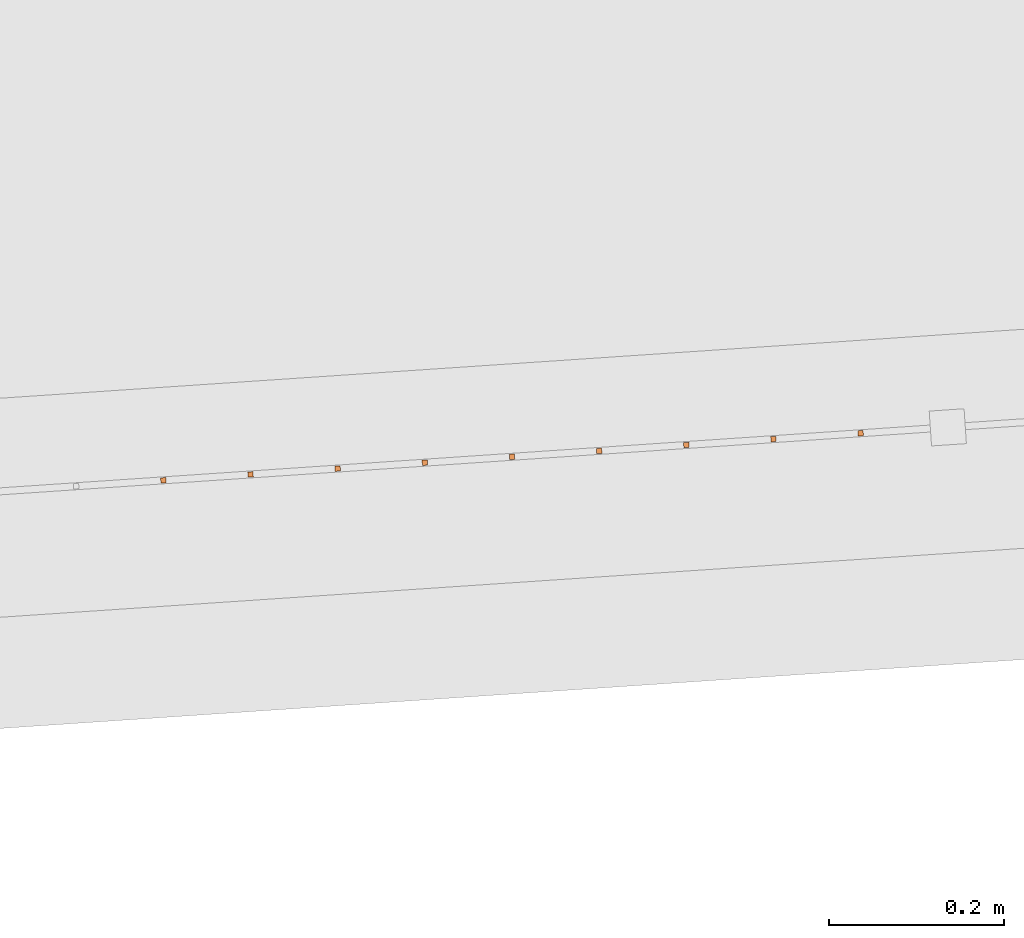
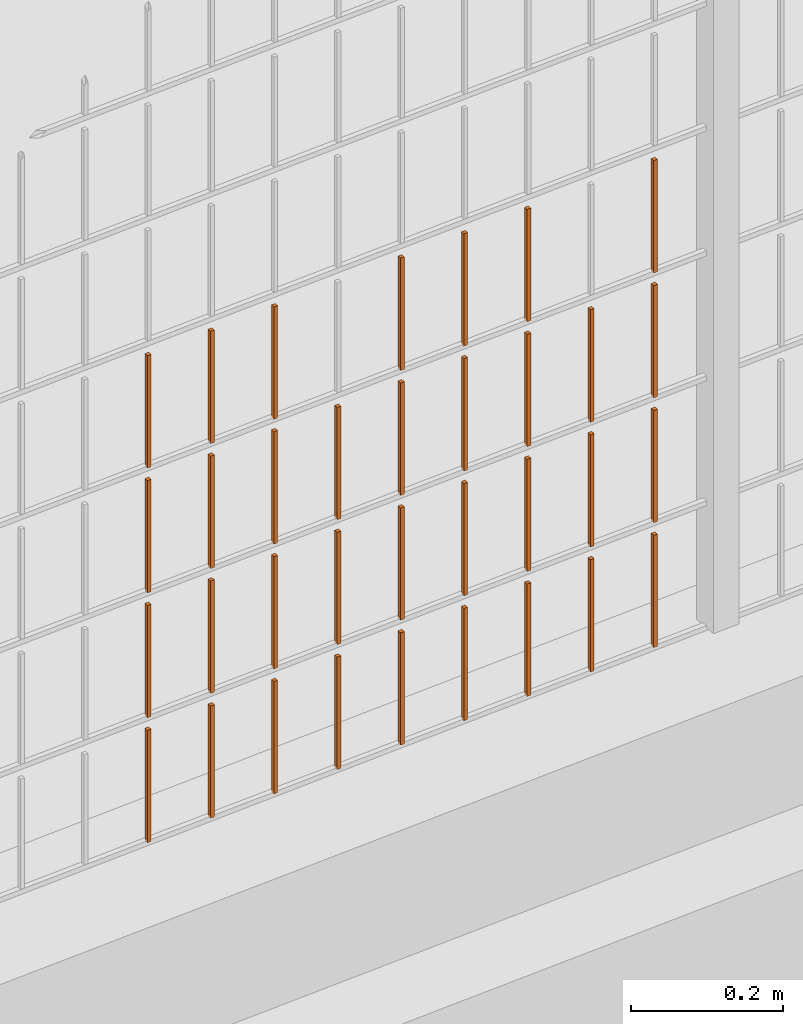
# One storey, part 319 of 1809: 34 proxies, 1 element without a shape of its own.
"""IFC2X3 building model written with IfcOpenShell, lengths in millimetres."""

import ifcopenshell
import ifcopenshell.guid

model = None  # the IFC model being written
_history = None  # IfcOwnerHistory: only IFC2X3 demands one
_inside = {}  # id of a spatial element -> (the spatial element, [elements in it])
_under = {}  # id of a project, library or spatial element -> (it, [spatial elements below it])
_declared = {}  # id of a project -> (the project, [libraries it declares])
_typed = {}  # id of a type object -> (the type object, [elements of that type])
_made_of = {}  # id of a material, layer set ... -> (it, [elements and type objects made of it])


def new_model(schema):
    """Start an empty IFC model of exactly this schema.

    Asked for "IFC4X3", IfcOpenShell would pick the latest addendum, in which some entities
    have other attributes; the version numbers below select the first issue.
    IFC2X3 requires an IfcOwnerHistory on every rooted entity: one is made here for all.
    """
    global model, _history
    if schema == "IFC4X3":
        model = ifcopenshell.file(schema_version=(4, 3, 0, 0))
    else:
        model = ifcopenshell.file(schema=schema)
    _inside.clear()
    _under.clear()
    _declared.clear()
    _typed.clear()
    _made_of.clear()
    _history = None
    if model.schema == "IFC2X3":
        org = make("IfcOrganization", Name="unknown")
        user = make(
            "IfcPersonAndOrganization",
            ThePerson=make("IfcPerson", FamilyName="unknown"),
            TheOrganization=org,
        )
        app = make(
            "IfcApplication",
            ApplicationDeveloper=org,
            Version="unknown",
            ApplicationFullName="unknown",
            ApplicationIdentifier="unknown",
        )
        _history = make(
            "IfcOwnerHistory",
            OwningUser=user,
            OwningApplication=app,
            ChangeAction="ADDED",
            CreationDate=0,
        )
    return model


def make(cls, **values):
    """One entity of the class cls with the attributes given. An attribute that is None is left unset."""
    return model.create_entity(
        cls, **{name: value for name, value in values.items() if value is not None}
    )


def entity(cls, *values):
    """Any entity or typed value of the class cls, its attributes in the order of the schema. None: left unset."""
    e = model.create_entity(cls)
    for i, value in enumerate(values):
        if value is not None:
            e[i] = value
    return e


def rooted(cls, **values):
    """An entity with a GlobalId (a new one), such as an element, a storey or a relation."""
    return make(cls, GlobalId=ifcopenshell.guid.new(), OwnerHistory=_history, **values)


def si_unit(unit_type, name, prefix=None):
    """IfcSIUnit, for example si_unit("LENGTHUNIT", "METRE", prefix="MILLI")."""
    return make("IfcSIUnit", UnitType=unit_type, Prefix=prefix, Name=name)


def converted_unit(unit_type, name, factor, base, dimensions=None, offset=None):
    """IfcConversionBasedUnit, such as the inch: factor (a typed value) times the base unit."""
    return make(
        "IfcConversionBasedUnit"
        if offset is None
        else "IfcConversionBasedUnitWithOffset",
        ConversionOffset=offset,
        Dimensions=None
        if dimensions is None
        else entity("IfcDimensionalExponents", *dimensions),
        UnitType=unit_type,
        Name=name,
        ConversionFactor=make(
            "IfcMeasureWithUnit", ValueComponent=factor, UnitComponent=base
        ),
    )


def derived_unit(unit_type, elements):
    """IfcDerivedUnit: a product of units, each with its exponent."""
    return make(
        "IfcDerivedUnit",
        Elements=[
            make("IfcDerivedUnitElement", Unit=unit, Exponent=power)
            for unit, power in elements
        ],
        UnitType=unit_type,
    )


def money_unit(currency):
    """IfcMonetaryUnit."""
    return make("IfcMonetaryUnit", Currency=currency)


def assignment(units):
    """IfcUnitAssignment: the units of a project."""
    return None if units is None else make("IfcUnitAssignment", Units=units)


def point(xyz):
    """IfcCartesianPoint."""
    return None if xyz is None else make("IfcCartesianPoint", Coordinates=xyz)


def direction(xyz):
    """IfcDirection."""
    return None if xyz is None else make("IfcDirection", DirectionRatios=xyz)


def frame(location, z_axis=None, x_axis=None):
    """IfcAxis2Placement3D, a coordinate frame: its origin and axes. An axis left out is left unset."""
    return make(
        "IfcAxis2Placement3D",
        Location=point(location),
        Axis=direction(z_axis),
        RefDirection=direction(x_axis),
    )


def origin_with_axes():
    """The frame at (0, 0, 0) with the z axis (0, 0, 1) and the x axis (1, 0, 0) written out."""
    return frame((0.0, 0.0, 0.0), z_axis=(0.0, 0.0, 1.0), x_axis=(1.0, 0.0, 0.0))


def place(relative_to, where):
    """IfcLocalPlacement: puts the frame where relative to a parent placement (None: the world)."""
    return make(
        "IfcLocalPlacement", PlacementRelTo=relative_to, RelativePlacement=where
    )


def context(
    kind, dimensions, precision=None, world=None, true_north=None, identifier=None
):
    """IfcGeometricRepresentationContext, for example the 3D "Model" context."""
    return make(
        "IfcGeometricRepresentationContext",
        ContextIdentifier=identifier,
        ContextType=kind,
        CoordinateSpaceDimension=dimensions,
        Precision=precision,
        WorldCoordinateSystem=world,
        TrueNorth=true_north,
    )


def subcontext(parent, identifier, kind, view, scale=None):
    """IfcGeometricRepresentationSubContext, for example "Body" below "Model"."""
    return make(
        "IfcGeometricRepresentationSubContext",
        ContextIdentifier=identifier,
        ContextType=kind,
        ParentContext=parent,
        TargetScale=scale,
        TargetView=view,
    )


def project(units=None, contexts=None):
    """IfcProject with its units and contexts."""
    return rooted(
        "IfcProject",
        Name="project",
        RepresentationContexts=contexts,
        UnitsInContext=assignment(units),
    )


def spatial(cls, under=None, at=None, **own):
    """A site, building, storey or space (cls), placed at a placement, below another one or the project."""
    s = rooted(cls, ObjectPlacement=at, **own)
    if under is not None:
        _under.setdefault(under.id(), (under, []))[1].append(s)
    return s


def faces_of(points, faces, orient=None, outer=None):
    """IfcFace entities. A face is a list of loops; a loop is a list of indices into points, from 0.

    orient and outer hold one flag for each loop. By default every Orientation is true, the
    first loop of a face is its IfcFaceOuterBound and the others are IfcFaceBound.
    """
    made = []
    for i, loops in enumerate(faces):
        bounds = []
        for j, loop in enumerate(loops):
            is_outer = j == 0 if outer is None else outer[i][j]
            bounds.append(
                make(
                    "IfcFaceOuterBound" if is_outer else "IfcFaceBound",
                    Bound=make("IfcPolyLoop", Polygon=[points[k] for k in loop]),
                    Orientation=True if orient is None else orient[i][j],
                )
            )
        made.append(make("IfcFace", Bounds=bounds))
    return made


def faceted_brep(points, faces, orient=None, outer=None, voids=None):
    """IfcFacetedBrep: a solid bounded by flat faces; with voids (closed shells), ...WithVoids."""
    shared = [point(p) for p in points]
    hull = make("IfcClosedShell", CfsFaces=faces_of(shared, faces, orient, outer))
    if voids is None:
        return make("IfcFacetedBrep", Outer=hull)
    return make(
        "IfcFacetedBrepWithVoids",
        Outer=hull,
        Voids=[
            make(cls, CfsFaces=faces_of(shared, fs, o, b)) for cls, fs, o, b in voids
        ],
    )


def shape(context_of_items, identifier, shape_type, items):
    """IfcShapeRepresentation: the items that make up one representation, for example the "Body"."""
    return make(
        "IfcShapeRepresentation",
        ContextOfItems=context_of_items,
        RepresentationIdentifier=identifier,
        RepresentationType=shape_type,
        Items=items,
    )


def source(mapping_origin, context_of_items, identifier, shape_type, items):
    """IfcRepresentationMap: a shape defined once, which mapped items show again and again."""
    return make(
        "IfcRepresentationMap",
        MappingOrigin=mapping_origin,
        MappedRepresentation=shape(context_of_items, identifier, shape_type, items),
    )


def transform(
    local_origin,
    x_axis=None,
    y_axis=None,
    z_axis=None,
    scale=None,
    scale2=None,
    scale3=None,
    uniform=True,
):
    """IfcCartesianTransformationOperator3D, or its non-uniform kind. x_axis, y_axis, z_axis: its Axis1, 2, 3."""
    if uniform:
        return make(
            "IfcCartesianTransformationOperator3D",
            Axis1=direction(x_axis),
            Axis2=direction(y_axis),
            LocalOrigin=point(local_origin),
            Scale=scale,
            Axis3=direction(z_axis),
        )
    return make(
        "IfcCartesianTransformationOperator3DnonUniform",
        Axis1=direction(x_axis),
        Axis2=direction(y_axis),
        LocalOrigin=point(local_origin),
        Scale=scale,
        Axis3=direction(z_axis),
        Scale2=scale2,
        Scale3=scale3,
    )


def mapped(mapping_source, mapping_target):
    """IfcMappedItem: shows the shape of a source again, moved by a transform."""
    return make(
        "IfcMappedItem", MappingSource=mapping_source, MappingTarget=mapping_target
    )


def material(Name=None, Category=None):
    """IfcMaterial."""
    return make("IfcMaterial", Name=Name, Category=Category)


def made_of(thing, what):
    """Note that an element or type object is made of a material, layer set ...; save() writes the relation."""
    if what is not None:
        _made_of.setdefault(what.id(), (what, []))[1].append(thing)
    return thing


def type_object(cls, material=None, **own):
    """A type object (cls), such as IfcWallType, which elements share."""
    return made_of(rooted(cls, **own), material)


def element(
    cls,
    number,
    at=None,
    inside=None,
    cuts=None,
    type_object=None,
    material=None,
    context=None,
    identifier="Body",
    shape_type=None,
    held_by="IfcProductDefinitionShape",
    body=None,
    shapes=None,
    **own,
):
    """One element of the class cls, such as IfcWall. Its Tag is "e" and its number.

    at: its placement. inside: the storey or other place that contains it. cuts: it is an
    opening in that element (IfcRelVoidsElement). A single representation is given by context,
    identifier, shape_type and body (its items); several are given by shapes. held_by: the class
    of the entity that holds the representations. save() writes the other relations.
    """
    e = rooted(cls, Tag="e%d" % number, ObjectPlacement=at, **own)
    if body is not None:
        shapes = [shape(context, identifier, shape_type, body)]
    if shapes is not None:
        e.Representation = make(held_by, Representations=shapes)
    if inside is not None:
        _inside.setdefault(inside.id(), (inside, []))[1].append(e)
    if cuts is not None:
        rooted(
            "IfcRelVoidsElement", RelatingBuildingElement=cuts, RelatedOpeningElement=e
        )
    if type_object is not None:
        _typed.setdefault(type_object.id(), (type_object, []))[1].append(e)
    return made_of(e, material)


def aggregate(whole, parts):
    """IfcRelAggregates: a whole, such as a stair, and the parts it consists of."""
    return rooted("IfcRelAggregates", RelatingObject=whole, RelatedObjects=parts)


def save(model, path):
    """Write the relations noted so far, then the file.

    IfcRelAggregates (storeys below a building ...), IfcRelContainedInSpatialStructure (elements
    in a storey), IfcRelDefinesByType, IfcRelAssociatesMaterial and IfcRelDeclares: one each for
    every whole, place, type object, material and project.
    """
    for whole, parts in _under.values():
        aggregate(whole, parts)
    for where, things in _inside.values():
        rooted(
            "IfcRelContainedInSpatialStructure",
            RelatedElements=things,
            RelatingStructure=where,
        )
    for kind, things in _typed.values():
        rooted("IfcRelDefinesByType", RelatedObjects=things, RelatingType=kind)
    for what, things in _made_of.values():
        rooted("IfcRelAssociatesMaterial", RelatedObjects=things, RelatingMaterial=what)
    for by, libraries in _declared.values():
        rooted("IfcRelDeclares", RelatingContext=by, RelatedDefinitions=libraries)
    model.write(path)


model = new_model("IFC2X3")

# Units and contexts
model_context = context("Model", 3, precision=0.01, world=origin_with_axes(), true_north=direction((0.0, 1.0)))
body_context = subcontext(model_context, "Body", "Model", "MODEL_VIEW")
ifc_project = project(units=[si_unit("LENGTHUNIT", "METRE", prefix="MILLI"), si_unit("AREAUNIT", "SQUARE_METRE"), si_unit("VOLUMEUNIT", "CUBIC_METRE"), converted_unit("PLANEANGLEUNIT", "DEGREE", entity("IfcPlaneAngleMeasure", 0.0174532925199), si_unit("PLANEANGLEUNIT", "RADIAN"), dimensions=[0, 0, 0, 0, 0, 0, 0]), si_unit("SOLIDANGLEUNIT", "STERADIAN"), money_unit("EUR"), converted_unit("TIMEUNIT", "Year", entity("IfcTimeMeasure", 31556926.0), si_unit("TIMEUNIT", "SECOND"), dimensions=[0, 0, 1, 0, 0, 0, 0]), si_unit("MASSUNIT", "GRAM", prefix="KILO"), si_unit("THERMODYNAMICTEMPERATUREUNIT", "DEGREE_CELSIUS"), si_unit("LUMINOUSINTENSITYUNIT", "LUMEN"), si_unit("ENERGYUNIT", "JOULE", prefix="MEGA"), derived_unit("THERMALCONDUCTANCEUNIT", [(si_unit("POWERUNIT", "WATT"), 1), (si_unit("LENGTHUNIT", "METRE"), -1), (si_unit("THERMODYNAMICTEMPERATUREUNIT", "KELVIN"), -1)]), derived_unit("SPECIFICHEATCAPACITYUNIT", [(si_unit("ENERGYUNIT", "JOULE"), 1), (si_unit("MASSUNIT", "GRAM", prefix="KILO"), -1), (si_unit("THERMODYNAMICTEMPERATUREUNIT", "KELVIN"), -1)]), derived_unit("MASSDENSITYUNIT", [(si_unit("MASSUNIT", "GRAM", prefix="KILO"), 1), (si_unit("VOLUMEUNIT", "CUBIC_METRE"), -1)])], contexts=[model_context])

# Site, building, storey
site_placement = place(None, origin_with_axes())
site = spatial("IfcSite", under=ifc_project, at=site_placement, Name="Politse- ja Piirivalveameti ning Päästeameti ühishoone", CompositionType="ELEMENT")
building_placement = place(site_placement, origin_with_axes())
building = spatial("IfcBuilding", under=site, at=building_placement, Name="Politse- ja Piirivalveameti ning Päästeameti ühishoone", CompositionType="ELEMENT")
storey_placement = place(building_placement, origin_with_axes())
storey = spatial("IfcBuildingStorey", under=building, at=storey_placement, Name="Esimene korrus", CompositionType="ELEMENT", Elevation=0.0)

# Proxies
building_element_proxy_type_1 = type_object("IfcBuildingElementProxyType", Name="Railing Type", PredefinedType="NOTDEFINED")
proxy_1_placement = place(storey_placement, frame((89252.001212, -29183.4766571, 203.661247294), z_axis=(0.0, 0.0, 1.0), x_axis=(1.0, 0.0, 0.0)))
proxy_1 = element("IfcBuildingElementProxy", 1, at=proxy_1_placement, inside=storey, type_object=building_element_proxy_type_1, Name="PIIRDEAED")
ifc_material = material(Name="ET-03_Raud")
building_element_proxy_type_2 = type_object("IfcBuildingElementProxyType", Name="IfcBuildingElementProxy", PredefinedType="NOTDEFINED")
shared_shape_1 = source(origin_with_axes(), body_context, "Body", "Brep", [
    faceted_brep([(3.0, 3.0, -0.000752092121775), (-3.0, 3.0, -0.000752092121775), (-3.0, 3.0, 179.99926046), (3.0, 3.0, 179.99926046), (3.0, -3.0, 0.000752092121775), (-3.0, -3.0, 0.000752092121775), (-3.0, -3.0, 180.000764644), (3.0, -3.0, 180.000764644)], [[[0, 1, 2, 3]], [[0, 4, 5, 1]], [[1, 5, 6, 2]], [[3, 2, 6, 7]], [[4, 0, 3, 7]], [[5, 4, 7, 6]]]),
])
proxy_2_placement = place(proxy_1_placement, frame((-38040.0080971, -19867.2337508, 17.67612496), z_axis=(0.0, 0.0, 1.0), x_axis=(1.0, 0.0, 0.0)))
proxy_2 = element("IfcBuildingElementProxy", 2, at=proxy_2_placement, type_object=building_element_proxy_type_2, material=ifc_material, Name="BALUSTER - 001", context=body_context, shape_type="MappedRepresentation", body=[
    mapped(shared_shape_1, transform((0.0, 0.0, 0.0), x_axis=(-0.0673926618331, 0.997726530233, 0.0), y_axis=(-0.997726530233, -0.0673926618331, 0.0), z_axis=(0.0, 0.0, 1.0))),
])
proxy_3_placement = place(proxy_1_placement, frame((-38040.0080971, -19867.2337508, 217.67612496), z_axis=(0.0, 0.0, 1.0), x_axis=(1.0, 0.0, 0.0)))
proxy_3 = element("IfcBuildingElementProxy", 3, at=proxy_3_placement, type_object=building_element_proxy_type_2, material=ifc_material, Name="BALUSTER - 001", context=body_context, shape_type="MappedRepresentation", body=[
    mapped(shared_shape_1, transform((0.0, 0.0, 0.0), x_axis=(-0.0673926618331, 0.997726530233, 0.0), y_axis=(-0.997726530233, -0.0673926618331, 0.0), z_axis=(0.0, 0.0, 1.0))),
])
shared_shape_2 = source(origin_with_axes(), body_context, "Body", "Brep", [
    faceted_brep([(3.0, 3.0, -0.000752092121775), (-3.0, 3.0, -0.000752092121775), (-3.0, 3.0, 179.99926046), (3.0, 3.0, 179.99926046), (3.0, -3.0, 0.000752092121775), (-3.0, -3.0, 0.000752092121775), (-3.0, -3.0, 180.000764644), (3.0, -3.0, 180.000764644)], [[[0, 1, 2, 3]], [[0, 4, 5, 1]], [[1, 5, 6, 2]], [[3, 2, 6, 7]], [[4, 0, 3, 7]], [[5, 4, 7, 6]]]),
])
proxy_4_placement = place(proxy_1_placement, frame((-38040.0080971, -19867.2337508, 417.67612496), z_axis=(0.0, 0.0, 1.0), x_axis=(1.0, 0.0, 0.0)))
proxy_4 = element("IfcBuildingElementProxy", 4, at=proxy_4_placement, type_object=building_element_proxy_type_2, material=ifc_material, Name="BALUSTER - 001", context=body_context, shape_type="MappedRepresentation", body=[
    mapped(shared_shape_2, transform((0.0, 0.0, 0.0), x_axis=(-0.0673926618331, 0.997726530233, 0.0), y_axis=(-0.997726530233, -0.0673926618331, 0.0), z_axis=(0.0, 0.0, 1.0))),
])
shared_shape_3 = source(origin_with_axes(), body_context, "Body", "Brep", [
    faceted_brep([(3.0, 3.0, -0.000752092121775), (-3.0, 3.0, -0.000752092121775), (-3.0, 3.0, 179.99926046), (3.0, 3.0, 179.99926046), (3.0, -3.0, 0.000752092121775), (-3.0, -3.0, 0.000752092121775), (-3.0, -3.0, 180.000764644), (3.0, -3.0, 180.000764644)], [[[0, 1, 2, 3]], [[0, 4, 5, 1]], [[1, 5, 6, 2]], [[3, 2, 6, 7]], [[4, 0, 3, 7]], [[5, 4, 7, 6]]]),
])
proxy_5_placement = place(proxy_1_placement, frame((-38040.0080971, -19867.2337508, 617.67612496), z_axis=(0.0, 0.0, 1.0), x_axis=(1.0, 0.0, 0.0)))
proxy_5 = element("IfcBuildingElementProxy", 5, at=proxy_5_placement, type_object=building_element_proxy_type_2, material=ifc_material, Name="BALUSTER - 001", context=body_context, shape_type="MappedRepresentation", body=[
    mapped(shared_shape_3, transform((0.0, 0.0, 0.0), x_axis=(-0.0673926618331, 0.997726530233, 0.0), y_axis=(-0.997726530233, -0.0673926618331, 0.0), z_axis=(0.0, 0.0, 1.0))),
])
shared_shape_4 = source(origin_with_axes(), body_context, "Body", "Brep", [
    faceted_brep([(3.0, 3.0, -0.000752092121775), (-3.0, 3.0, -0.000752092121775), (-3.0, 3.0, 179.99926046), (3.0, 3.0, 179.99926046), (3.0, -3.0, 0.000752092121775), (-3.0, -3.0, 0.000752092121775), (-3.0, -3.0, 180.000764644), (3.0, -3.0, 180.000764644)], [[[0, 1, 2, 3]], [[0, 4, 5, 1]], [[1, 5, 6, 2]], [[3, 2, 6, 7]], [[4, 0, 3, 7]], [[5, 4, 7, 6]]]),
])
proxy_6_placement = place(proxy_1_placement, frame((-38139.7807501, -19873.9730169, 17.6510552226), z_axis=(0.0, 0.0, 1.0), x_axis=(1.0, 0.0, 0.0)))
proxy_6 = element("IfcBuildingElementProxy", 6, at=proxy_6_placement, type_object=building_element_proxy_type_2, material=ifc_material, Name="BALUSTER - 001", context=body_context, shape_type="MappedRepresentation", body=[
    mapped(shared_shape_4, transform((0.0, 0.0, 0.0), x_axis=(-0.0673926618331, 0.997726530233, 0.0), y_axis=(-0.997726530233, -0.0673926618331, 0.0), z_axis=(0.0, 0.0, 1.0))),
])
shared_shape_5 = source(origin_with_axes(), body_context, "Body", "Brep", [
    faceted_brep([(3.0, 3.0, -0.000752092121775), (-3.0, 3.0, -0.000752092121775), (-3.0, 3.0, 179.99926046), (3.0, 3.0, 179.99926046), (3.0, -3.0, 0.000752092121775), (-3.0, -3.0, 0.000752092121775), (-3.0, -3.0, 180.000764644), (3.0, -3.0, 180.000764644)], [[[0, 1, 2, 3]], [[0, 4, 5, 1]], [[1, 5, 6, 2]], [[3, 2, 6, 7]], [[4, 0, 3, 7]], [[5, 4, 7, 6]]]),
])
proxy_7_placement = place(proxy_1_placement, frame((-38139.7807501, -19873.9730169, 217.651055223), z_axis=(0.0, 0.0, 1.0), x_axis=(1.0, 0.0, 0.0)))
proxy_7 = element("IfcBuildingElementProxy", 7, at=proxy_7_placement, type_object=building_element_proxy_type_2, material=ifc_material, Name="BALUSTER - 001", context=body_context, shape_type="MappedRepresentation", body=[
    mapped(shared_shape_5, transform((0.0, 0.0, 0.0), x_axis=(-0.0673926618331, 0.997726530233, 0.0), y_axis=(-0.997726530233, -0.0673926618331, 0.0), z_axis=(0.0, 0.0, 1.0))),
])
shared_shape_6 = source(origin_with_axes(), body_context, "Body", "Brep", [
    faceted_brep([(3.0, 3.0, -0.000752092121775), (-3.0, 3.0, -0.000752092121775), (-3.0, 3.0, 179.99926046), (3.0, 3.0, 179.99926046), (3.0, -3.0, 0.000752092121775), (-3.0, -3.0, 0.000752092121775), (-3.0, -3.0, 180.000764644), (3.0, -3.0, 180.000764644)], [[[0, 1, 2, 3]], [[0, 4, 5, 1]], [[1, 5, 6, 2]], [[3, 2, 6, 7]], [[4, 0, 3, 7]], [[5, 4, 7, 6]]]),
])
proxy_8_placement = place(proxy_1_placement, frame((-38139.7807501, -19873.9730169, 417.651055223), z_axis=(0.0, 0.0, 1.0), x_axis=(1.0, 0.0, 0.0)))
proxy_8 = element("IfcBuildingElementProxy", 8, at=proxy_8_placement, type_object=building_element_proxy_type_2, material=ifc_material, Name="BALUSTER - 001", context=body_context, shape_type="MappedRepresentation", body=[
    mapped(shared_shape_6, transform((0.0, 0.0, 0.0), x_axis=(-0.0673926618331, 0.997726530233, 0.0), y_axis=(-0.997726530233, -0.0673926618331, 0.0), z_axis=(0.0, 0.0, 1.0))),
])
shared_shape_7 = source(origin_with_axes(), body_context, "Body", "Brep", [
    faceted_brep([(3.0, 3.0, -0.000752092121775), (-3.0, 3.0, -0.000752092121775), (-3.0, 3.0, 179.99926046), (3.0, 3.0, 179.99926046), (3.0, -3.0, 0.000752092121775), (-3.0, -3.0, 0.000752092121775), (-3.0, -3.0, 180.000764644), (3.0, -3.0, 180.000764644)], [[[0, 1, 2, 3]], [[0, 4, 5, 1]], [[1, 5, 6, 2]], [[3, 2, 6, 7]], [[4, 0, 3, 7]], [[5, 4, 7, 6]]]),
])
proxy_9_placement = place(proxy_1_placement, frame((-38139.7807501, -19873.9730169, 617.651055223), z_axis=(0.0, 0.0, 1.0), x_axis=(1.0, 0.0, 0.0)))
proxy_9 = element("IfcBuildingElementProxy", 9, at=proxy_9_placement, type_object=building_element_proxy_type_2, material=ifc_material, Name="BALUSTER - 001", context=body_context, shape_type="MappedRepresentation", body=[
    mapped(shared_shape_7, transform((0.0, 0.0, 0.0), x_axis=(-0.0673926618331, 0.997726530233, 0.0), y_axis=(-0.997726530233, -0.0673926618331, 0.0), z_axis=(0.0, 0.0, 1.0))),
])
shared_shape_8 = source(origin_with_axes(), body_context, "Body", "Brep", [
    faceted_brep([(3.0, 3.0, -0.000752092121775), (-3.0, 3.0, -0.000752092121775), (-3.0, 3.0, 179.99926046), (3.0, 3.0, 179.99926046), (3.0, -3.0, 0.000752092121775), (-3.0, -3.0, 0.000752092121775), (-3.0, -3.0, 180.000764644), (3.0, -3.0, 180.000764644)], [[[0, 1, 2, 3]], [[0, 4, 5, 1]], [[1, 5, 6, 2]], [[3, 2, 6, 7]], [[4, 0, 3, 7]], [[5, 4, 7, 6]]]),
])
proxy_10_placement = place(proxy_1_placement, frame((-37441.3721789, -19826.7981537, 17.8265433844), z_axis=(0.0, 0.0, 1.0), x_axis=(1.0, 0.0, 0.0)))
proxy_10 = element("IfcBuildingElementProxy", 10, at=proxy_10_placement, type_object=building_element_proxy_type_2, material=ifc_material, Name="BALUSTER - 001", context=body_context, shape_type="MappedRepresentation", body=[
    mapped(shared_shape_8, transform((0.0, 0.0, 0.0), x_axis=(-0.0673926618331, 0.997726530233, 0.0), y_axis=(-0.997726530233, -0.0673926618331, 0.0), z_axis=(0.0, 0.0, 1.0))),
])
shared_shape_9 = source(origin_with_axes(), body_context, "Body", "Brep", [
    faceted_brep([(3.0, 3.0, -0.000752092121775), (-3.0, 3.0, -0.000752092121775), (-3.0, 3.0, 179.99926046), (3.0, 3.0, 179.99926046), (3.0, -3.0, 0.000752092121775), (-3.0, -3.0, 0.000752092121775), (-3.0, -3.0, 180.000764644), (3.0, -3.0, 180.000764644)], [[[0, 1, 2, 3]], [[0, 4, 5, 1]], [[1, 5, 6, 2]], [[3, 2, 6, 7]], [[4, 0, 3, 7]], [[5, 4, 7, 6]]]),
])
proxy_11_placement = place(proxy_1_placement, frame((-37441.3721789, -19826.7981537, 417.826543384), z_axis=(0.0, 0.0, 1.0), x_axis=(1.0, 0.0, 0.0)))
proxy_11 = element("IfcBuildingElementProxy", 11, at=proxy_11_placement, type_object=building_element_proxy_type_2, material=ifc_material, Name="BALUSTER - 001", context=body_context, shape_type="MappedRepresentation", body=[
    mapped(shared_shape_9, transform((0.0, 0.0, 0.0), x_axis=(-0.0673926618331, 0.997726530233, 0.0), y_axis=(-0.997726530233, -0.0673926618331, 0.0), z_axis=(0.0, 0.0, 1.0))),
])
shared_shape_10 = source(origin_with_axes(), body_context, "Body", "Brep", [
    faceted_brep([(3.0, 3.0, -0.000752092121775), (-3.0, 3.0, -0.000752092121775), (-3.0, 3.0, 179.99926046), (3.0, 3.0, 179.99926046), (3.0, -3.0, 0.000752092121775), (-3.0, -3.0, 0.000752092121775), (-3.0, -3.0, 180.000764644), (3.0, -3.0, 180.000764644)], [[[0, 1, 2, 3]], [[0, 4, 5, 1]], [[1, 5, 6, 2]], [[3, 2, 6, 7]], [[4, 0, 3, 7]], [[5, 4, 7, 6]]]),
])
proxy_12_placement = place(proxy_1_placement, frame((-37441.3721789, -19826.7981537, 217.826543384), z_axis=(0.0, 0.0, 1.0), x_axis=(1.0, 0.0, 0.0)))
proxy_12 = element("IfcBuildingElementProxy", 12, at=proxy_12_placement, type_object=building_element_proxy_type_2, material=ifc_material, Name="BALUSTER - 001", context=body_context, shape_type="MappedRepresentation", body=[
    mapped(shared_shape_10, transform((0.0, 0.0, 0.0), x_axis=(-0.0673926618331, 0.997726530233, 0.0), y_axis=(-0.997726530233, -0.0673926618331, 0.0), z_axis=(0.0, 0.0, 1.0))),
])
shared_shape_11 = source(origin_with_axes(), body_context, "Body", "Brep", [
    faceted_brep([(3.0, 3.0, -0.000752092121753), (-3.0, 3.0, -0.000752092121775), (-3.0, 3.0, 179.99926046), (3.0, 3.0, 179.99926046), (3.0, -3.0, 0.000752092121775), (-3.0, -3.0, 0.000752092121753), (-3.0, -3.0, 180.000764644), (3.0, -3.0, 180.000764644)], [[[0, 1, 2, 3]], [[0, 4, 5, 1]], [[1, 5, 6, 2]], [[3, 2, 6, 7]], [[4, 0, 3, 7]], [[5, 4, 7, 6]]]),
])
proxy_13_placement = place(proxy_1_placement, frame((-37740.690138, -19847.0159522, 17.7513341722), z_axis=(0.0, 0.0, 1.0), x_axis=(1.0, 0.0, 0.0)))
proxy_13 = element("IfcBuildingElementProxy", 13, at=proxy_13_placement, type_object=building_element_proxy_type_2, material=ifc_material, Name="BALUSTER - 001", context=body_context, shape_type="MappedRepresentation", body=[
    mapped(shared_shape_11, transform((0.0, 0.0, 0.0), x_axis=(-0.0673926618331, 0.997726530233, 0.0), y_axis=(-0.997726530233, -0.0673926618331, 0.0), z_axis=(0.0, 0.0, 1.0))),
])
shared_shape_12 = source(origin_with_axes(), body_context, "Body", "Brep", [
    faceted_brep([(3.0, 3.0, -0.000752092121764), (-3.0, 3.0, -0.000752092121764), (-3.0, 3.0, 179.99926046), (3.0, 3.0, 179.99926046), (3.0, -3.0, 0.000752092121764), (-3.0, -3.0, 0.000752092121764), (-3.0, -3.0, 180.000764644), (3.0, -3.0, 180.000764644)], [[[0, 1, 2, 3]], [[0, 4, 5, 1]], [[1, 5, 6, 2]], [[3, 2, 6, 7]], [[4, 0, 3, 7]], [[5, 4, 7, 6]]]),
])
proxy_14_placement = place(proxy_1_placement, frame((-37541.1448319, -19833.5374198, 17.801473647), z_axis=(0.0, 0.0, 1.0), x_axis=(1.0, 0.0, 0.0)))
proxy_14 = element("IfcBuildingElementProxy", 14, at=proxy_14_placement, type_object=building_element_proxy_type_2, material=ifc_material, Name="BALUSTER - 001", context=body_context, shape_type="MappedRepresentation", body=[
    mapped(shared_shape_12, transform((0.0, 0.0, 0.0), x_axis=(-0.0673926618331, 0.997726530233, 0.0), y_axis=(-0.997726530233, -0.0673926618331, 0.0), z_axis=(0.0, 0.0, 1.0))),
])
shared_shape_13 = source(origin_with_axes(), body_context, "Body", "Brep", [
    faceted_brep([(3.0, 3.0, -0.000752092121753), (-3.0, 3.0, -0.000752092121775), (-3.0, 3.0, 179.99926046), (3.0, 3.0, 179.99926046), (3.0, -3.0, 0.000752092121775), (-3.0, -3.0, 0.000752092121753), (-3.0, -3.0, 180.000764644), (3.0, -3.0, 180.000764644)], [[[0, 1, 2, 3]], [[0, 4, 5, 1]], [[1, 5, 6, 2]], [[3, 2, 6, 7]], [[4, 0, 3, 7]], [[5, 4, 7, 6]]]),
])
proxy_15_placement = place(proxy_1_placement, frame((-37940.235444, -19860.4944846, 17.7011946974), z_axis=(0.0, 0.0, 1.0), x_axis=(1.0, 0.0, 0.0)))
proxy_15 = element("IfcBuildingElementProxy", 15, at=proxy_15_placement, type_object=building_element_proxy_type_2, material=ifc_material, Name="BALUSTER - 001", context=body_context, shape_type="MappedRepresentation", body=[
    mapped(shared_shape_13, transform((0.0, 0.0, 0.0), x_axis=(-0.0673926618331, 0.997726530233, 0.0), y_axis=(-0.997726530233, -0.0673926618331, 0.0), z_axis=(0.0, 0.0, 1.0))),
])
shared_shape_14 = source(origin_with_axes(), body_context, "Body", "Brep", [
    faceted_brep([(3.0, 3.0, -0.000752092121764), (-3.0, 3.0, -0.000752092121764), (-3.0, 3.0, 179.99926046), (3.0, 3.0, 179.99926046), (3.0, -3.0, 0.000752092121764), (-3.0, -3.0, 0.000752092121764), (-3.0, -3.0, 180.000764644), (3.0, -3.0, 180.000764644)], [[[0, 1, 2, 3]], [[0, 4, 5, 1]], [[1, 5, 6, 2]], [[3, 2, 6, 7]], [[4, 0, 3, 7]], [[5, 4, 7, 6]]]),
])
proxy_16_placement = place(proxy_1_placement, frame((-37541.1448319, -19833.5374198, 217.801473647), z_axis=(0.0, 0.0, 1.0), x_axis=(1.0, 0.0, 0.0)))
proxy_16 = element("IfcBuildingElementProxy", 16, at=proxy_16_placement, type_object=building_element_proxy_type_2, material=ifc_material, Name="BALUSTER - 001", context=body_context, shape_type="MappedRepresentation", body=[
    mapped(shared_shape_14, transform((0.0, 0.0, 0.0), x_axis=(-0.0673926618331, 0.997726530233, 0.0), y_axis=(-0.997726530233, -0.0673926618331, 0.0), z_axis=(0.0, 0.0, 1.0))),
])
proxy_17_placement = place(proxy_1_placement, frame((-37640.917485, -19840.276686, 217.77640391), z_axis=(0.0, 0.0, 1.0), x_axis=(1.0, 0.0, 0.0)))
proxy_17 = element("IfcBuildingElementProxy", 17, at=proxy_17_placement, type_object=building_element_proxy_type_2, material=ifc_material, Name="BALUSTER - 001", context=body_context, shape_type="MappedRepresentation", body=[
    mapped(shared_shape_14, transform((0.0, 0.0, 0.0), x_axis=(-0.0673926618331, 0.997726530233, 0.0), y_axis=(-0.997726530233, -0.0673926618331, 0.0), z_axis=(0.0, 0.0, 1.0))),
])
proxy_18_placement = place(proxy_1_placement, frame((-37541.1448319, -19833.5374198, 417.801473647), z_axis=(0.0, 0.0, 1.0), x_axis=(1.0, 0.0, 0.0)))
proxy_18 = element("IfcBuildingElementProxy", 18, at=proxy_18_placement, type_object=building_element_proxy_type_2, material=ifc_material, Name="BALUSTER - 001", context=body_context, shape_type="MappedRepresentation", body=[
    mapped(shared_shape_14, transform((0.0, 0.0, 0.0), x_axis=(-0.0673926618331, 0.997726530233, 0.0), y_axis=(-0.997726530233, -0.0673926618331, 0.0), z_axis=(0.0, 0.0, 1.0))),
])
proxy_19_placement = place(proxy_1_placement, frame((-37640.917485, -19840.276686, 617.77640391), z_axis=(0.0, 0.0, 1.0), x_axis=(1.0, 0.0, 0.0)))
proxy_19 = element("IfcBuildingElementProxy", 19, at=proxy_19_placement, type_object=building_element_proxy_type_2, material=ifc_material, Name="BALUSTER - 001", context=body_context, shape_type="MappedRepresentation", body=[
    mapped(shared_shape_14, transform((0.0, 0.0, 0.0), x_axis=(-0.0673926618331, 0.997726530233, 0.0), y_axis=(-0.997726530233, -0.0673926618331, 0.0), z_axis=(0.0, 0.0, 1.0))),
])
shared_shape_15 = source(origin_with_axes(), body_context, "Body", "Brep", [
    faceted_brep([(3.0, 3.0, -0.000752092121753), (-3.0, 3.0, -0.000752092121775), (-3.0, 3.0, 179.99926046), (3.0, 3.0, 179.99926046), (3.0, -3.0, 0.000752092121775), (-3.0, -3.0, 0.000752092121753), (-3.0, -3.0, 180.000764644), (3.0, -3.0, 180.000764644)], [[[0, 1, 2, 3]], [[0, 4, 5, 1]], [[1, 5, 6, 2]], [[3, 2, 6, 7]], [[4, 0, 3, 7]], [[5, 4, 7, 6]]]),
])
proxy_20_placement = place(proxy_1_placement, frame((-37740.690138, -19847.0159522, 217.751334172), z_axis=(0.0, 0.0, 1.0), x_axis=(1.0, 0.0, 0.0)))
proxy_20 = element("IfcBuildingElementProxy", 20, at=proxy_20_placement, type_object=building_element_proxy_type_2, material=ifc_material, Name="BALUSTER - 001", context=body_context, shape_type="MappedRepresentation", body=[
    mapped(shared_shape_15, transform((0.0, 0.0, 0.0), x_axis=(-0.0673926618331, 0.997726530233, 0.0), y_axis=(-0.997726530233, -0.0673926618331, 0.0), z_axis=(0.0, 0.0, 1.0))),
])
proxy_21_placement = place(proxy_1_placement, frame((-37740.690138, -19847.0159522, 417.751334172), z_axis=(0.0, 0.0, 1.0), x_axis=(1.0, 0.0, 0.0)))
proxy_21 = element("IfcBuildingElementProxy", 21, at=proxy_21_placement, type_object=building_element_proxy_type_2, material=ifc_material, Name="BALUSTER - 001", context=body_context, shape_type="MappedRepresentation", body=[
    mapped(shared_shape_15, transform((0.0, 0.0, 0.0), x_axis=(-0.0673926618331, 0.997726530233, 0.0), y_axis=(-0.997726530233, -0.0673926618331, 0.0), z_axis=(0.0, 0.0, 1.0))),
])
shared_shape_16 = source(origin_with_axes(), body_context, "Body", "Brep", [
    faceted_brep([(3.0, 3.0, -0.000752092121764), (-3.0, 3.0, -0.000752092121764), (-3.0, 3.0, 179.99926046), (3.0, 3.0, 179.99926046), (3.0, -3.0, 0.000752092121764), (-3.0, -3.0, 0.000752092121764), (-3.0, -3.0, 180.000764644), (3.0, -3.0, 180.000764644)], [[[0, 1, 2, 3]], [[0, 4, 5, 1]], [[1, 5, 6, 2]], [[3, 2, 6, 7]], [[4, 0, 3, 7]], [[5, 4, 7, 6]]]),
])
proxy_22_placement = place(proxy_1_placement, frame((-37640.917485, -19840.276686, 417.77640391), z_axis=(0.0, 0.0, 1.0), x_axis=(1.0, 0.0, 0.0)))
proxy_22 = element("IfcBuildingElementProxy", 22, at=proxy_22_placement, type_object=building_element_proxy_type_2, material=ifc_material, Name="BALUSTER - 001", context=body_context, shape_type="MappedRepresentation", body=[
    mapped(shared_shape_16, transform((0.0, 0.0, 0.0), x_axis=(-0.0673926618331, 0.997726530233, 0.0), y_axis=(-0.997726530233, -0.0673926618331, 0.0), z_axis=(0.0, 0.0, 1.0))),
])
shared_shape_17 = source(origin_with_axes(), body_context, "Body", "Brep", [
    faceted_brep([(3.0, 3.0, -0.000752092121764), (-3.0, 3.0, -0.000752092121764), (-3.0, 3.0, 179.99926046), (3.0, 3.0, 179.99926046), (3.0, -3.0, 0.000752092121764), (-3.0, -3.0, 0.000752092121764), (-3.0, -3.0, 180.000764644), (3.0, -3.0, 180.000764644)], [[[0, 1, 2, 3]], [[0, 4, 5, 1]], [[1, 5, 6, 2]], [[3, 2, 6, 7]], [[4, 0, 3, 7]], [[5, 4, 7, 6]]]),
])
proxy_23_placement = place(proxy_1_placement, frame((-37341.5995259, -19820.0588875, 617.851613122), z_axis=(0.0, 0.0, 1.0), x_axis=(1.0, 0.0, 0.0)))
proxy_23 = element("IfcBuildingElementProxy", 23, at=proxy_23_placement, type_object=building_element_proxy_type_2, material=ifc_material, Name="BALUSTER - 001", context=body_context, shape_type="MappedRepresentation", body=[
    mapped(shared_shape_17, transform((0.0, 0.0, 0.0), x_axis=(-0.0673926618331, 0.997726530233, 0.0), y_axis=(-0.997726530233, -0.0673926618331, 0.0), z_axis=(0.0, 0.0, 1.0))),
])
shared_shape_18 = source(origin_with_axes(), body_context, "Body", "Brep", [
    faceted_brep([(3.0, 3.0, -0.000752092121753), (-3.0, 3.0, -0.000752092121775), (-3.0, 3.0, 179.99926046), (3.0, 3.0, 179.99926046), (3.0, -3.0, 0.000752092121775), (-3.0, -3.0, 0.000752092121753), (-3.0, -3.0, 180.000764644), (3.0, -3.0, 180.000764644)], [[[0, 1, 2, 3]], [[0, 4, 5, 1]], [[1, 5, 6, 2]], [[3, 2, 6, 7]], [[4, 0, 3, 7]], [[5, 4, 7, 6]]]),
])
proxy_24_placement = place(proxy_1_placement, frame((-37840.462791, -19853.7552184, 417.726264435), z_axis=(0.0, 0.0, 1.0), x_axis=(1.0, 0.0, 0.0)))
proxy_24 = element("IfcBuildingElementProxy", 24, at=proxy_24_placement, type_object=building_element_proxy_type_2, material=ifc_material, Name="BALUSTER - 001", context=body_context, shape_type="MappedRepresentation", body=[
    mapped(shared_shape_18, transform((0.0, 0.0, 0.0), x_axis=(-0.0673926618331, 0.997726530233, 0.0), y_axis=(-0.997726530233, -0.0673926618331, 0.0), z_axis=(0.0, 0.0, 1.0))),
])
proxy_25_placement = place(proxy_1_placement, frame((-37940.235444, -19860.4944846, 417.701194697), z_axis=(0.0, 0.0, 1.0), x_axis=(1.0, 0.0, 0.0)))
proxy_25 = element("IfcBuildingElementProxy", 25, at=proxy_25_placement, type_object=building_element_proxy_type_2, material=ifc_material, Name="BALUSTER - 001", context=body_context, shape_type="MappedRepresentation", body=[
    mapped(shared_shape_18, transform((0.0, 0.0, 0.0), x_axis=(-0.0673926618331, 0.997726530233, 0.0), y_axis=(-0.997726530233, -0.0673926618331, 0.0), z_axis=(0.0, 0.0, 1.0))),
])
shared_shape_19 = source(origin_with_axes(), body_context, "Body", "Brep", [
    faceted_brep([(3.0, 3.0, -0.000752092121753), (-3.0, 3.0, -0.000752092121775), (-3.0, 3.0, 179.99926046), (3.0, 3.0, 179.99926046), (3.0, -3.0, 0.000752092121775), (-3.0, -3.0, 0.000752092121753), (-3.0, -3.0, 180.000764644), (3.0, -3.0, 180.000764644)], [[[0, 1, 2, 3]], [[0, 4, 5, 1]], [[1, 5, 6, 2]], [[3, 2, 6, 7]], [[4, 0, 3, 7]], [[5, 4, 7, 6]]]),
])
proxy_26_placement = place(proxy_1_placement, frame((-37740.690138, -19847.0159522, 617.751334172), z_axis=(0.0, 0.0, 1.0), x_axis=(1.0, 0.0, 0.0)))
proxy_26 = element("IfcBuildingElementProxy", 26, at=proxy_26_placement, type_object=building_element_proxy_type_2, material=ifc_material, Name="BALUSTER - 001", context=body_context, shape_type="MappedRepresentation", body=[
    mapped(shared_shape_19, transform((0.0, 0.0, 0.0), x_axis=(-0.0673926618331, 0.997726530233, 0.0), y_axis=(-0.997726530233, -0.0673926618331, 0.0), z_axis=(0.0, 0.0, 1.0))),
])
shared_shape_20 = source(origin_with_axes(), body_context, "Body", "Brep", [
    faceted_brep([(3.0, 3.0, -0.000752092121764), (-3.0, 3.0, -0.000752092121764), (-3.0, 3.0, 179.99926046), (3.0, 3.0, 179.99926046), (3.0, -3.0, 0.000752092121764), (-3.0, -3.0, 0.000752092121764), (-3.0, -3.0, 180.000764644), (3.0, -3.0, 180.000764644)], [[[0, 1, 2, 3]], [[0, 4, 5, 1]], [[1, 5, 6, 2]], [[3, 2, 6, 7]], [[4, 0, 3, 7]], [[5, 4, 7, 6]]]),
])
proxy_27_placement = place(proxy_1_placement, frame((-37541.1448319, -19833.5374198, 617.801473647), z_axis=(0.0, 0.0, 1.0), x_axis=(1.0, 0.0, 0.0)))
proxy_27 = element("IfcBuildingElementProxy", 27, at=proxy_27_placement, type_object=building_element_proxy_type_2, material=ifc_material, Name="BALUSTER - 001", context=body_context, shape_type="MappedRepresentation", body=[
    mapped(shared_shape_20, transform((0.0, 0.0, 0.0), x_axis=(-0.0673926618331, 0.997726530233, 0.0), y_axis=(-0.997726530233, -0.0673926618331, 0.0), z_axis=(0.0, 0.0, 1.0))),
])
shared_shape_21 = source(origin_with_axes(), body_context, "Body", "Brep", [
    faceted_brep([(3.0, 3.0, -0.000752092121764), (-3.0, 3.0, -0.000752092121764), (-3.0, 3.0, 179.99926046), (3.0, 3.0, 179.99926046), (3.0, -3.0, 0.000752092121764), (-3.0, -3.0, 0.000752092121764), (-3.0, -3.0, 180.000764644), (3.0, -3.0, 180.000764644)], [[[0, 1, 2, 3]], [[0, 4, 5, 1]], [[1, 5, 6, 2]], [[3, 2, 6, 7]], [[4, 0, 3, 7]], [[5, 4, 7, 6]]]),
])
proxy_28_placement = place(proxy_1_placement, frame((-37341.5995259, -19820.0588875, 17.8516131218), z_axis=(0.0, 0.0, 1.0), x_axis=(1.0, 0.0, 0.0)))
proxy_28 = element("IfcBuildingElementProxy", 28, at=proxy_28_placement, type_object=building_element_proxy_type_2, material=ifc_material, Name="BALUSTER - 001", context=body_context, shape_type="MappedRepresentation", body=[
    mapped(shared_shape_21, transform((0.0, 0.0, 0.0), x_axis=(-0.0673926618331, 0.997726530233, 0.0), y_axis=(-0.997726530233, -0.0673926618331, 0.0), z_axis=(0.0, 0.0, 1.0))),
])
shared_shape_22 = source(origin_with_axes(), body_context, "Body", "Brep", [
    faceted_brep([(3.0, 3.0, -0.000752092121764), (-3.0, 3.0, -0.000752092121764), (-3.0, 3.0, 179.99926046), (3.0, 3.0, 179.99926046), (3.0, -3.0, 0.000752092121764), (-3.0, -3.0, 0.000752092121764), (-3.0, -3.0, 180.000764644), (3.0, -3.0, 180.000764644)], [[[0, 1, 2, 3]], [[0, 4, 5, 1]], [[1, 5, 6, 2]], [[3, 2, 6, 7]], [[4, 0, 3, 7]], [[5, 4, 7, 6]]]),
])
proxy_29_placement = place(proxy_1_placement, frame((-37640.917485, -19840.276686, 17.7764039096), z_axis=(0.0, 0.0, 1.0), x_axis=(1.0, 0.0, 0.0)))
proxy_29 = element("IfcBuildingElementProxy", 29, at=proxy_29_placement, type_object=building_element_proxy_type_2, material=ifc_material, Name="BALUSTER - 001", context=body_context, shape_type="MappedRepresentation", body=[
    mapped(shared_shape_22, transform((0.0, 0.0, 0.0), x_axis=(-0.0673926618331, 0.997726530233, 0.0), y_axis=(-0.997726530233, -0.0673926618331, 0.0), z_axis=(0.0, 0.0, 1.0))),
])
shared_shape_23 = source(origin_with_axes(), body_context, "Body", "Brep", [
    faceted_brep([(3.0, 3.0, -0.000752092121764), (-3.0, 3.0, -0.000752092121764), (-3.0, 3.0, 179.99926046), (3.0, 3.0, 179.99926046), (3.0, -3.0, 0.000752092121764), (-3.0, -3.0, 0.000752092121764), (-3.0, -3.0, 180.000764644), (3.0, -3.0, 180.000764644)], [[[0, 1, 2, 3]], [[0, 4, 5, 1]], [[1, 5, 6, 2]], [[3, 2, 6, 7]], [[4, 0, 3, 7]], [[5, 4, 7, 6]]]),
])
proxy_30_placement = place(proxy_1_placement, frame((-37341.5995259, -19820.0588875, 417.851613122), z_axis=(0.0, 0.0, 1.0), x_axis=(1.0, 0.0, 0.0)))
proxy_30 = element("IfcBuildingElementProxy", 30, at=proxy_30_placement, type_object=building_element_proxy_type_2, material=ifc_material, Name="BALUSTER - 001", context=body_context, shape_type="MappedRepresentation", body=[
    mapped(shared_shape_23, transform((0.0, 0.0, 0.0), x_axis=(-0.0673926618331, 0.997726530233, 0.0), y_axis=(-0.997726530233, -0.0673926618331, 0.0), z_axis=(0.0, 0.0, 1.0))),
])
shared_shape_24 = source(origin_with_axes(), body_context, "Body", "Brep", [
    faceted_brep([(3.0, 3.0, -0.000752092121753), (-3.0, 3.0, -0.000752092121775), (-3.0, 3.0, 179.99926046), (3.0, 3.0, 179.99926046), (3.0, -3.0, 0.000752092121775), (-3.0, -3.0, 0.000752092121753), (-3.0, -3.0, 180.000764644), (3.0, -3.0, 180.000764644)], [[[0, 1, 2, 3]], [[0, 4, 5, 1]], [[1, 5, 6, 2]], [[3, 2, 6, 7]], [[4, 0, 3, 7]], [[5, 4, 7, 6]]]),
])
proxy_31_placement = place(proxy_1_placement, frame((-37840.462791, -19853.7552184, 17.7262644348), z_axis=(0.0, 0.0, 1.0), x_axis=(1.0, 0.0, 0.0)))
proxy_31 = element("IfcBuildingElementProxy", 31, at=proxy_31_placement, type_object=building_element_proxy_type_2, material=ifc_material, Name="BALUSTER - 001", context=body_context, shape_type="MappedRepresentation", body=[
    mapped(shared_shape_24, transform((0.0, 0.0, 0.0), x_axis=(-0.0673926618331, 0.997726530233, 0.0), y_axis=(-0.997726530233, -0.0673926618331, 0.0), z_axis=(0.0, 0.0, 1.0))),
])
shared_shape_25 = source(origin_with_axes(), body_context, "Body", "Brep", [
    faceted_brep([(3.0, 3.0, -0.000752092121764), (-3.0, 3.0, -0.000752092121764), (-3.0, 3.0, 179.99926046), (3.0, 3.0, 179.99926046), (3.0, -3.0, 0.000752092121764), (-3.0, -3.0, 0.000752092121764), (-3.0, -3.0, 180.000764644), (3.0, -3.0, 180.000764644)], [[[0, 1, 2, 3]], [[0, 4, 5, 1]], [[1, 5, 6, 2]], [[3, 2, 6, 7]], [[4, 0, 3, 7]], [[5, 4, 7, 6]]]),
])
proxy_32_placement = place(proxy_1_placement, frame((-37341.5995259, -19820.0588875, 217.851613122), z_axis=(0.0, 0.0, 1.0), x_axis=(1.0, 0.0, 0.0)))
proxy_32 = element("IfcBuildingElementProxy", 32, at=proxy_32_placement, type_object=building_element_proxy_type_2, material=ifc_material, Name="BALUSTER - 001", context=body_context, shape_type="MappedRepresentation", body=[
    mapped(shared_shape_25, transform((0.0, 0.0, 0.0), x_axis=(-0.0673926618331, 0.997726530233, 0.0), y_axis=(-0.997726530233, -0.0673926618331, 0.0), z_axis=(0.0, 0.0, 1.0))),
])
shared_shape_26 = source(origin_with_axes(), body_context, "Body", "Brep", [
    faceted_brep([(3.0, 3.0, -0.000752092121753), (-3.0, 3.0, -0.000752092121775), (-3.0, 3.0, 179.99926046), (3.0, 3.0, 179.99926046), (3.0, -3.0, 0.000752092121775), (-3.0, -3.0, 0.000752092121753), (-3.0, -3.0, 180.000764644), (3.0, -3.0, 180.000764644)], [[[0, 1, 2, 3]], [[0, 4, 5, 1]], [[1, 5, 6, 2]], [[3, 2, 6, 7]], [[4, 0, 3, 7]], [[5, 4, 7, 6]]]),
])
proxy_33_placement = place(proxy_1_placement, frame((-37840.462791, -19853.7552184, 217.726264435), z_axis=(0.0, 0.0, 1.0), x_axis=(1.0, 0.0, 0.0)))
proxy_33 = element("IfcBuildingElementProxy", 33, at=proxy_33_placement, type_object=building_element_proxy_type_2, material=ifc_material, Name="BALUSTER - 001", context=body_context, shape_type="MappedRepresentation", body=[
    mapped(shared_shape_26, transform((0.0, 0.0, 0.0), x_axis=(-0.0673926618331, 0.997726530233, 0.0), y_axis=(-0.997726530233, -0.0673926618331, 0.0), z_axis=(0.0, 0.0, 1.0))),
])
proxy_34_placement = place(proxy_1_placement, frame((-37940.235444, -19860.4944846, 217.701194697), z_axis=(0.0, 0.0, 1.0), x_axis=(1.0, 0.0, 0.0)))
proxy_34 = element("IfcBuildingElementProxy", 34, at=proxy_34_placement, type_object=building_element_proxy_type_2, material=ifc_material, Name="BALUSTER - 001", context=body_context, shape_type="MappedRepresentation", body=[
    mapped(shared_shape_26, transform((0.0, 0.0, 0.0), x_axis=(-0.0673926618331, 0.997726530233, 0.0), y_axis=(-0.997726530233, -0.0673926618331, 0.0), z_axis=(0.0, 0.0, 1.0))),
])
shared_shape_27 = source(origin_with_axes(), body_context, "Body", "Brep", [
    faceted_brep([(3.0, 3.0, -0.000752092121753), (-3.0, 3.0, -0.000752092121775), (-3.0, 3.0, 179.99926046), (3.0, 3.0, 179.99926046), (3.0, -3.0, 0.000752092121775), (-3.0, -3.0, 0.000752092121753), (-3.0, -3.0, 180.000764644), (3.0, -3.0, 180.000764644)], [[[0, 1, 2, 3]], [[0, 4, 5, 1]], [[1, 5, 6, 2]], [[3, 2, 6, 7]], [[4, 0, 3, 7]], [[5, 4, 7, 6]]]),
])
proxy_35_placement = place(proxy_1_placement, frame((-37940.235444, -19860.4944846, 617.701194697), z_axis=(0.0, 0.0, 1.0), x_axis=(1.0, 0.0, 0.0)))
proxy_35 = element("IfcBuildingElementProxy", 35, at=proxy_35_placement, type_object=building_element_proxy_type_2, material=ifc_material, Name="BALUSTER - 001", context=body_context, shape_type="MappedRepresentation", body=[
    mapped(shared_shape_27, transform((0.0, 0.0, 0.0), x_axis=(-0.0673926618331, 0.997726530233, 0.0), y_axis=(-0.997726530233, -0.0673926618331, 0.0), z_axis=(0.0, 0.0, 1.0))),
])
aggregate(proxy_1, [proxy_28, proxy_10, proxy_14, proxy_29, proxy_13, proxy_31, proxy_15, proxy_2, proxy_6, proxy_32, proxy_12, proxy_16, proxy_17, proxy_20, proxy_33, proxy_34, proxy_3, proxy_7, proxy_30, proxy_11, proxy_18, proxy_22, proxy_21, proxy_24, proxy_25, proxy_4, proxy_8, proxy_23, proxy_27, proxy_19, proxy_26, proxy_35, proxy_5, proxy_9])

save(model, "model.ifc")
